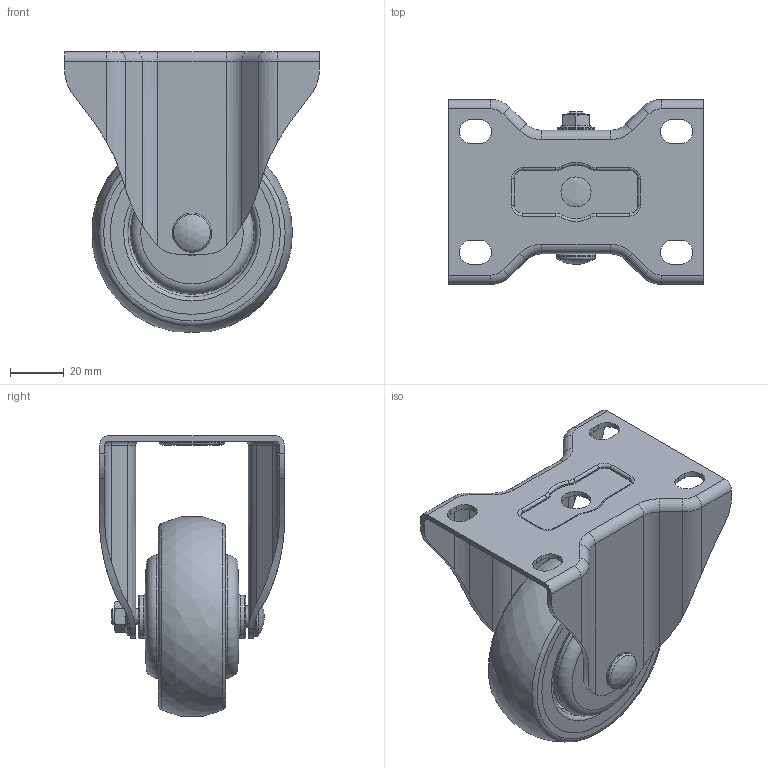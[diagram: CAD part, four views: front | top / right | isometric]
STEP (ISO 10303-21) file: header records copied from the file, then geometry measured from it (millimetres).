
FILE_DESCRIPTION((''),'2;1');
FILE_NAME('E:\GL-홈피용3D\3d step\가져온 구성요소\GL-75-ARF\GL-75-ARF.stp','2011-11-21T09:26:50',('Administrator'),(''),'Autodesk Inventor 2011','Autodesk Inventor 2011','');
FILE_SCHEMA(('AUTOMOTIVE_DESIGN { 1 0 10303 214 1 1 1 1 }'));
Length unit declared in the file: millimetre
Products named in the file (1): GL-75-ARF
Bounding box: 95 x 69 x 104.68 mm (x, y, z)
Volume: 123938.2 mm3; surface area: 78087.4 mm2
Topology: 6 solids, 10 shells, 330 faces, 812 edges, 517 vertices
Faces by surface type: cylinder 126, plane 92, torus 85, cone 21, bspline 5, sphere 1
Full cylindrical faces by diameter (mm): 6 x2, 6.2 x1, 8 x1, 8.2 x2, 11.2 x1, 14 x1, 14.6 x1, 15 x3, 16 x2, 21.667 x2, 21.867 x2, 28.133 x2, 28.333 x2, 32 x2, 34 x2, 38 x2, 43 x2, 46 x2, 48 x2, 61 x1, 61.001 x2
Entity records: 9012 total; most frequent: CARTESIAN_POINT 1829, DIRECTION 1586, ORIENTED_EDGE 1290, AXIS2_PLACEMENT_3D 679, EDGE_CURVE 645, EDGE_LOOP 479, VERTEX_POINT 451, CIRCLE 353
